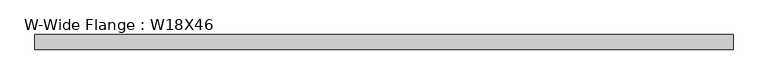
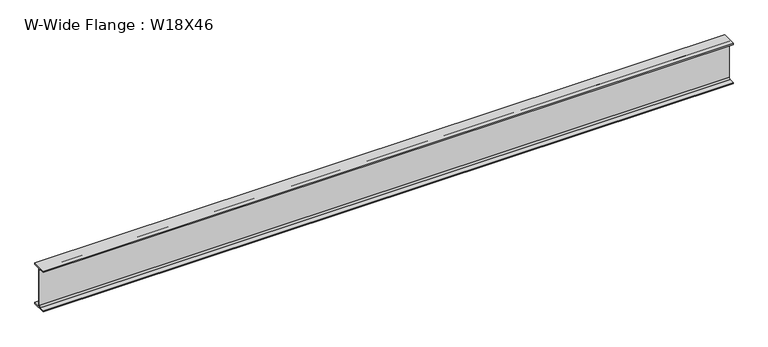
"""IFC4 building model written with IfcOpenShell, lengths in millimetres: beam geometry, W-Wide Flange : W18X46."""

from ifc_helpers import new_model, si_unit, point, frame, frame_2d, origin, place, context, project, spatial, polyline, circle_curve, trimmed, segment, composite_curve, outline, extrude, source, transform, mapped, element, save


def w_wide_flange_w18x46_b0132ec0(model_context):
    return source(origin(), model_context, "Body", "SweptSolid", [
        extrude(outline(composite_curve([segment(polyline([(76.962, -214.503), (76.962, -229.87), (-76.962, -229.87), (-76.962, -214.503), (-20.955, -214.503)]), True, "CONTINUOUS"), segment(trimmed(circle_curve(frame_2d((-20.955, -198.12)), 16.383), [point((-20.955, -214.503))], [point((-4.572, -198.12))], True, "CARTESIAN"), True, "CONTINUOUS"), segment(polyline([(-4.572, -198.12), (-4.572, 198.12)]), True, "CONTINUOUS"), segment(trimmed(circle_curve(frame_2d((-20.955, 198.12)), 16.383), [point((-4.572, 198.12))], [point((-20.955, 214.503))], True, "CARTESIAN"), True, "CONTINUOUS"), segment(polyline([(-20.955, 214.503), (-76.962, 214.503), (-76.962, 229.87), (76.962, 229.87), (76.962, 214.503), (20.955, 214.503)]), True, "CONTINUOUS"), segment(trimmed(circle_curve(frame_2d((20.955, 198.12)), 16.383), [point((20.955, 214.503))], [point((4.572, 198.12))], True, "CARTESIAN"), True, "CONTINUOUS"), segment(polyline([(4.572, 198.12), (4.572, -198.12)]), True, "CONTINUOUS"), segment(trimmed(circle_curve(frame_2d((20.955, -198.12)), 16.383), [point((4.572, -198.12))], [point((20.955, -214.503))], True, "CARTESIAN"), True, "CONTINUOUS"), segment(polyline([(20.955, -214.503), (76.962, -214.503)]), True, "CONTINUOUS")], self_intersect=False)), frame((-3648.0253906, 0.0, 0.0), z_axis=(1.0, 0.0, 0.0), x_axis=(0.0, 1.0, 0.0)), (0.0, 0.0, 1.0), 7358.7570312),
    ])


if __name__ == "__main__":
    model = new_model("IFC4")
    model_context = context("Model", 3, world=origin())
    ifc_project = project(units=[si_unit("LENGTHUNIT", "METRE", prefix="MILLI")], contexts=[model_context])
    site = spatial("IfcSite", under=ifc_project)
    building = spatial("IfcBuilding", under=site)
    placement = place(None, origin())
    w_wide_flange_w18x46_shape = w_wide_flange_w18x46_b0132ec0(model_context)
    element("IfcBeam", 1, ObjectType="W-Wide Flange : W18X46", at=placement, inside=building, context=model_context, shape_type="MappedRepresentation", body=[
        mapped(w_wide_flange_w18x46_shape, transform((0.0, 0.0, 0.0), x_axis=(1.0, 0.0, 0.0), y_axis=(0.0, 1.0, 0.0), z_axis=(0.0, 0.0, 1.0))),
    ])
    save(model, "model.ifc")
